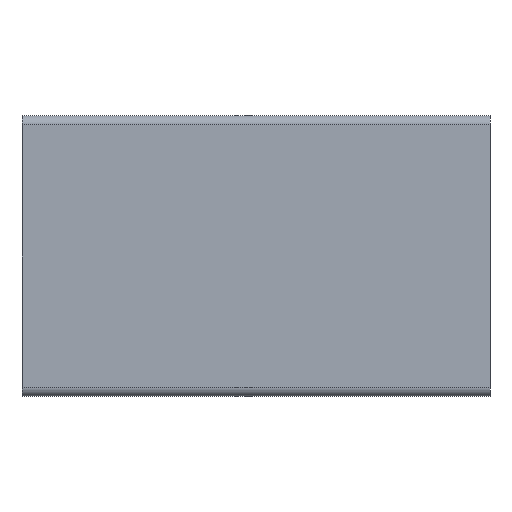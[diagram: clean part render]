
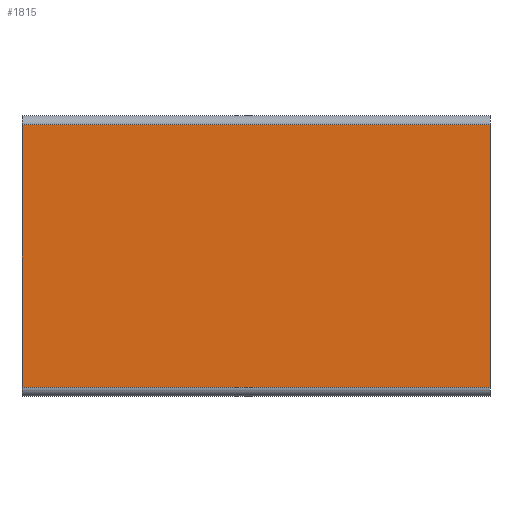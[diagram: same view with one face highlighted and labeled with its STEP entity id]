
A CAD part, front view. The second image highlights one B-rep face of the part: STEP entity #1815.
In plain terms, the highlighted planar face has unit normal (0, -1, 0).
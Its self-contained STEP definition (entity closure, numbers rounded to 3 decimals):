
#36 = EDGE_CURVE ( 'NONE', #137, #112, #1540, .T. ) ;
#39 = CARTESIAN_POINT ( 'NONE',  ( 100., 0., -28. ) ) ;
#78 = ORIENTED_EDGE ( 'NONE', *, *, #174, .T. ) ;
#112 = VERTEX_POINT ( 'NONE', #331 ) ;
#137 = VERTEX_POINT ( 'NONE', #968 ) ;
#147 = FACE_OUTER_BOUND ( 'NONE', #1583, .T. ) ;
#174 = EDGE_CURVE ( 'NONE', #137, #1340, #1297, .T. ) ;
#209 = CARTESIAN_POINT ( 'NONE',  ( 100., 0., -28. ) ) ;
#248 = ORIENTED_EDGE ( 'NONE', *, *, #1291, .F. ) ;
#320 = VECTOR ( 'NONE', #362, 1000. ) ;
#331 = CARTESIAN_POINT ( 'NONE',  ( 100., 0., -28. ) ) ;
#362 = DIRECTION ( 'NONE',  ( 0., 0., -1. ) ) ;
#521 = AXIS2_PLACEMENT_3D ( 'NONE', #209, #1255, #1124 ) ;
#597 = CARTESIAN_POINT ( 'NONE',  ( 0., 0., -28. ) ) ;
#656 = VECTOR ( 'NONE', #1749, 1000. ) ;
#706 = ORIENTED_EDGE ( 'NONE', *, *, #897, .T. ) ;
#707 = PLANE ( 'NONE',  #521 ) ;
#791 = VECTOR ( 'NONE', #1639, 1000. ) ;
#897 = EDGE_CURVE ( 'NONE', #1340, #1661, #1592, .T. ) ;
#968 = CARTESIAN_POINT ( 'NONE',  ( 100., 0., 28. ) ) ;
#1124 = DIRECTION ( 'NONE',  ( 0., 0., 1. ) ) ;
#1183 = CARTESIAN_POINT ( 'NONE',  ( 100., 0., -28. ) ) ;
#1255 = DIRECTION ( 'NONE',  ( 0., 1., 0. ) ) ;
#1270 = CARTESIAN_POINT ( 'NONE',  ( 100., 0., 28. ) ) ;
#1284 = DIRECTION ( 'NONE',  ( -1., 0., 0. ) ) ;
#1291 = EDGE_CURVE ( 'NONE', #112, #1661, #1873, .T. ) ;
#1297 = LINE ( 'NONE', #1270, #1705 ) ;
#1340 = VERTEX_POINT ( 'NONE', #1477 ) ;
#1477 = CARTESIAN_POINT ( 'NONE',  ( 0., 0., 28. ) ) ;
#1540 = LINE ( 'NONE', #39, #320 ) ;
#1583 = EDGE_LOOP ( 'NONE', ( #706, #248, #1942, #78 ) ) ;
#1592 = LINE ( 'NONE', #1623, #791 ) ;
#1623 = CARTESIAN_POINT ( 'NONE',  ( 0., 0., -28. ) ) ;
#1639 = DIRECTION ( 'NONE',  ( 0., 0., -1. ) ) ;
#1661 = VERTEX_POINT ( 'NONE', #597 ) ;
#1705 = VECTOR ( 'NONE', #1284, 1000. ) ;
#1749 = DIRECTION ( 'NONE',  ( -1., 0., 0. ) ) ;
#1815 = ADVANCED_FACE ( 'NONE', ( #147 ), #707, .F. ) ;
#1873 = LINE ( 'NONE', #1183, #656 ) ;
#1942 = ORIENTED_EDGE ( 'NONE', *, *, #36, .F. ) ;
